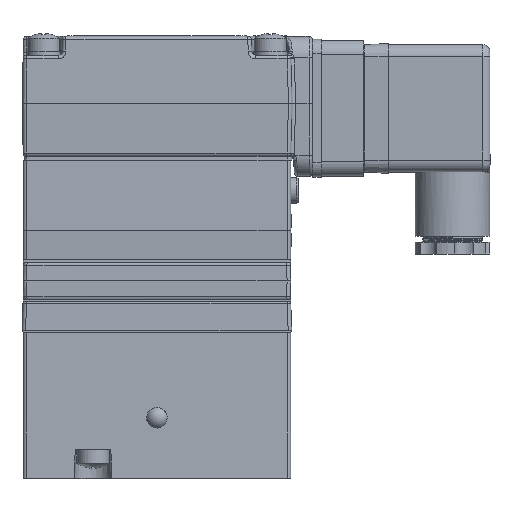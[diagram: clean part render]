
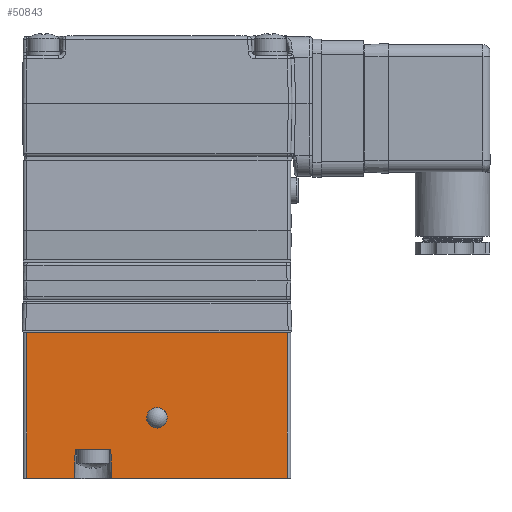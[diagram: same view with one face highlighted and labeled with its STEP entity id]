
A CAD part, top view. The second image highlights one B-rep face of the part: STEP entity #50843.
In plain terms, the highlighted planar face has unit normal (0, 0.009, 1).
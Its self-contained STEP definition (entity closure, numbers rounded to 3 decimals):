
#3071=ELLIPSE('',#55217,2.197,2.197);
#8157=LINE('',#122439,#11336);
#8160=LINE('',#122447,#11339);
#8169=LINE('',#122504,#11348);
#8197=LINE('',#122584,#11376);
#8199=LINE('',#122591,#11378);
#8239=LINE('',#122906,#11418);
#8240=LINE('',#122908,#11419);
#8241=LINE('',#122909,#11420);
#11336=VECTOR('',#65943,1000.);
#11339=VECTOR('',#65948,1000.);
#11348=VECTOR('',#65999,1000.);
#11376=VECTOR('',#66093,1000.);
#11378=VECTOR('',#66105,1000.);
#11418=VECTOR('',#66307,1000.);
#11419=VECTOR('',#66308,1000.);
#11420=VECTOR('',#66309,1000.);
#12644=FACE_BOUND('',#18127,.T.);
#14921=FACE_OUTER_BOUND('',#18126,.T.);
#18126=EDGE_LOOP('',(#43646,#43647,#43648,#43649,#43650,#43651,#43652,#43653));
#18127=EDGE_LOOP('',(#43654));
#24626=VERTEX_POINT('',#122436);
#24627=VERTEX_POINT('',#122438);
#24630=VERTEX_POINT('',#122444);
#24631=VERTEX_POINT('',#122446);
#24658=VERTEX_POINT('',#122503);
#24677=VERTEX_POINT('',#122583);
#24723=VERTEX_POINT('',#122905);
#24724=VERTEX_POINT('',#122907);
#24725=VERTEX_POINT('',#122910);
#31038=EDGE_CURVE('',#24626,#24627,#8157,.T.);
#31042=EDGE_CURVE('',#24630,#24631,#8160,.T.);
#31071=EDGE_CURVE('',#24658,#24631,#8169,.T.);
#31111=EDGE_CURVE('',#24658,#24677,#8197,.T.);
#31115=EDGE_CURVE('',#24626,#24677,#8199,.T.);
#31206=EDGE_CURVE('',#24723,#24630,#8239,.T.);
#31207=EDGE_CURVE('',#24723,#24724,#8240,.T.);
#31208=EDGE_CURVE('',#24627,#24724,#8241,.T.);
#31209=EDGE_CURVE('',#24725,#24725,#3071,.T.);
#43646=ORIENTED_EDGE('',*,*,#31038,.F.);
#43647=ORIENTED_EDGE('',*,*,#31115,.T.);
#43648=ORIENTED_EDGE('',*,*,#31111,.F.);
#43649=ORIENTED_EDGE('',*,*,#31071,.T.);
#43650=ORIENTED_EDGE('',*,*,#31042,.F.);
#43651=ORIENTED_EDGE('',*,*,#31206,.F.);
#43652=ORIENTED_EDGE('',*,*,#31207,.T.);
#43653=ORIENTED_EDGE('',*,*,#31208,.F.);
#43654=ORIENTED_EDGE('',*,*,#31209,.T.);
#48326=PLANE('',#55216);
#50843=ADVANCED_FACE('',(#14921,#12644),#48326,.T.);
#55216=AXIS2_PLACEMENT_3D('',#122904,#66305,#66306);
#55217=AXIS2_PLACEMENT_3D('',#122911,#66310,#66311);
#65943=DIRECTION('',(-1.,0.,0.));
#65948=DIRECTION('',(-1.,0.,0.));
#65999=DIRECTION('',(0.,-1.,0.009));
#66093=DIRECTION('',(1.,0.,0.));
#66105=DIRECTION('',(0.,1.,-0.009));
#66305=DIRECTION('center_axis',(0.,0.009,
1.));
#66306=DIRECTION('ref_axis',(0.,1.,-0.009));
#66307=DIRECTION('',(-0.035,-0.999,0.009));
#66308=DIRECTION('',(1.,0.,0.));
#66309=DIRECTION('',(-0.035,0.999,-0.009));
#66310=DIRECTION('center_axis',(0.,-0.009,-1.));
#66311=DIRECTION('ref_axis',(0.,1.,-0.009));
#122436=CARTESIAN_POINT('',(27.813,0.508,19.325));
#122438=CARTESIAN_POINT('',(-9.617,0.508,19.325));
#122439=CARTESIAN_POINT('',(28.575,0.508,19.325));
#122444=CARTESIAN_POINT('',(-17.663,0.508,19.325));
#122446=CARTESIAN_POINT('',(-27.813,0.508,19.325));
#122447=CARTESIAN_POINT('',(28.575,0.508,19.325));
#122503=CARTESIAN_POINT('',(-27.813,31.699,19.052));
#122504=CARTESIAN_POINT('',(-27.813,31.979,19.05));
#122583=CARTESIAN_POINT('',(27.813,31.699,19.052));
#122584=CARTESIAN_POINT('',(28.575,31.699,19.052));
#122591=CARTESIAN_POINT('',(27.813,31.979,19.05));
#122904=CARTESIAN_POINT('Origin',(28.575,31.979,19.05));
#122905=CARTESIAN_POINT('',(-17.45,6.604,19.271));
#122906=CARTESIAN_POINT('',(-16.509,33.553,19.036));
#122907=CARTESIAN_POINT('',(-9.83,6.604,19.271));
#122908=CARTESIAN_POINT('',(28.575,6.604,19.271));
#122909=CARTESIAN_POINT('',(-10.668,30.608,19.062));
#122910=CARTESIAN_POINT('',(-2.197,13.437,19.212));
#122911=CARTESIAN_POINT('Origin',(0.,13.437,19.212));
